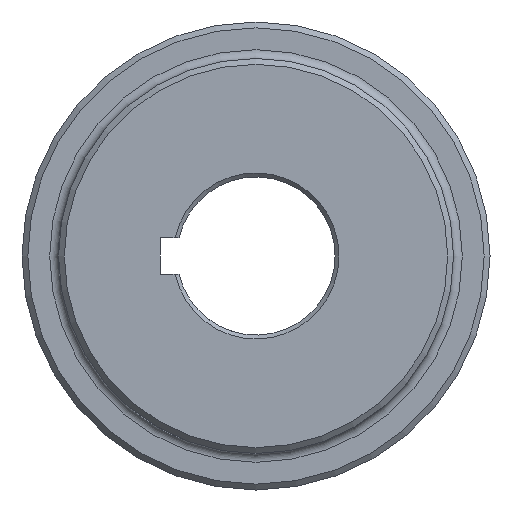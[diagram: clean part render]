
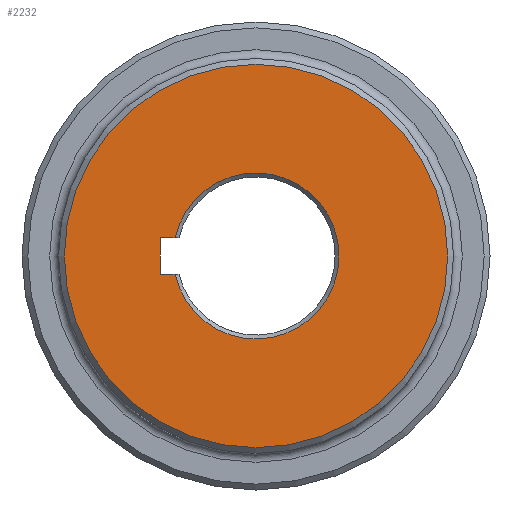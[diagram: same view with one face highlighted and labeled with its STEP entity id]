
A CAD part, left-side view. The second image highlights one B-rep face of the part: STEP entity #2232.
In plain terms, the highlighted planar face has unit normal (-1, 0, 0).
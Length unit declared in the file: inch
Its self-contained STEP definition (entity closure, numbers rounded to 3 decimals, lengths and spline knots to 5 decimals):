
#23 = DIRECTION ( 'NONE',  ( 0., 0., -1. ) ) ;
#97 = DIRECTION ( 'NONE',  ( 0., 1., 0. ) ) ;
#240 = CARTESIAN_POINT ( 'NONE',  ( 0., 0.98325, -0.1875 ) ) ;
#254 = DIRECTION ( 'NONE',  ( 1., 0., 0. ) ) ;
#323 = EDGE_CURVE ( 'NONE', #2348, #1951, #2104, .T. ) ;
#336 = AXIS2_PLACEMENT_3D ( 'NONE', #994, #254, #1260 ) ;
#402 = VECTOR ( 'NONE', #97, 39.37008 ) ;
#489 = CIRCLE ( 'NONE', #336, 0.85275 ) ;
#495 = AXIS2_PLACEMENT_3D ( 'NONE', #1270, #2443, #1136 ) ;
#508 = CARTESIAN_POINT ( 'NONE',  ( 0., 0.98325, -0.1875 ) ) ;
#557 = LINE ( 'NONE', #2127, #402 ) ;
#583 = VECTOR ( 'NONE', #1962, 39.37008 ) ;
#700 = CARTESIAN_POINT ( 'NONE',  ( 0., 0.83188, 0.1875 ) ) ;
#723 = DIRECTION ( 'NONE',  ( 0., 0., -1. ) ) ;
#739 = VERTEX_POINT ( 'NONE', #700 ) ;
#912 = FACE_BOUND ( 'NONE', #2234, .T. ) ;
#994 = CARTESIAN_POINT ( 'NONE',  ( 0., 0., 0. ) ) ;
#1136 = DIRECTION ( 'NONE',  ( 0., 0., -1. ) ) ;
#1138 = CIRCLE ( 'NONE', #1587, 1.97 ) ;
#1166 = EDGE_CURVE ( 'NONE', #2235, #2348, #2462, .T. ) ;
#1260 = DIRECTION ( 'NONE',  ( 0., 0., -1. ) ) ;
#1270 = CARTESIAN_POINT ( 'NONE',  ( 0., 0., 0. ) ) ;
#1339 = VECTOR ( 'NONE', #23, 39.37008 ) ;
#1460 = CARTESIAN_POINT ( 'NONE',  ( 0., 0.98325, 0.1875 ) ) ;
#1499 = EDGE_CURVE ( 'NONE', #739, #2235, #557, .T. ) ;
#1501 = DIRECTION ( 'NONE',  ( -1., 0., 0. ) ) ;
#1539 = CARTESIAN_POINT ( 'NONE',  ( 0., 0.83188, -0.1875 ) ) ;
#1561 = VERTEX_POINT ( 'NONE', #1777 ) ;
#1587 = AXIS2_PLACEMENT_3D ( 'NONE', #1773, #1501, #723 ) ;
#1773 = CARTESIAN_POINT ( 'NONE',  ( 0., 0., 0. ) ) ;
#1777 = CARTESIAN_POINT ( 'NONE',  ( 0., 0., -1.97 ) ) ;
#1780 = FACE_OUTER_BOUND ( 'NONE', #2469, .T. ) ;
#1786 = EDGE_CURVE ( 'NONE', #1561, #1561, #1138, .T. ) ;
#1882 = ORIENTED_EDGE ( 'NONE', *, *, #1499, .F. ) ;
#1951 = VERTEX_POINT ( 'NONE', #1539 ) ;
#1962 = DIRECTION ( 'NONE',  ( 0., -1., 0. ) ) ;
#2094 = ORIENTED_EDGE ( 'NONE', *, *, #323, .F. ) ;
#2104 = LINE ( 'NONE', #2456, #583 ) ;
#2127 = CARTESIAN_POINT ( 'NONE',  ( 0., 0., 0.1875 ) ) ;
#2232 = ADVANCED_FACE ( 'NONE', ( #1780, #912 ), #2665, .F. ) ;
#2234 = EDGE_LOOP ( 'NONE', ( #1882, #2388, #2094, #2455 ) ) ;
#2235 = VERTEX_POINT ( 'NONE', #1460 ) ;
#2320 = ORIENTED_EDGE ( 'NONE', *, *, #1786, .T. ) ;
#2348 = VERTEX_POINT ( 'NONE', #508 ) ;
#2388 = ORIENTED_EDGE ( 'NONE', *, *, #2754, .T. ) ;
#2443 = DIRECTION ( 'NONE',  ( 1., 0., 0. ) ) ;
#2455 = ORIENTED_EDGE ( 'NONE', *, *, #1166, .F. ) ;
#2456 = CARTESIAN_POINT ( 'NONE',  ( 0., 0., -0.1875 ) ) ;
#2462 = LINE ( 'NONE', #240, #1339 ) ;
#2469 = EDGE_LOOP ( 'NONE', ( #2320 ) ) ;
#2665 = PLANE ( 'NONE',  #495 ) ;
#2754 = EDGE_CURVE ( 'NONE', #739, #1951, #489, .T. ) ;
